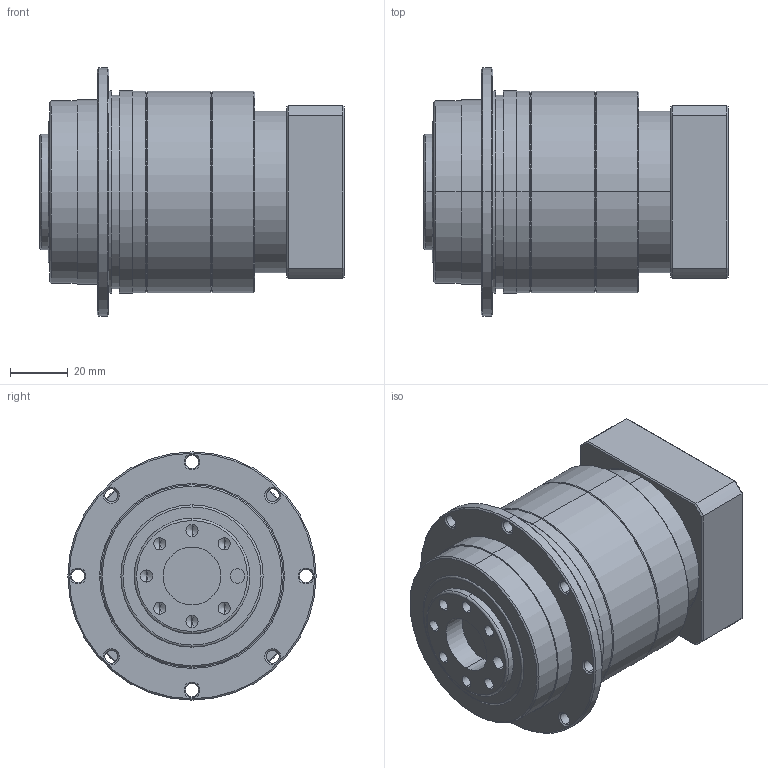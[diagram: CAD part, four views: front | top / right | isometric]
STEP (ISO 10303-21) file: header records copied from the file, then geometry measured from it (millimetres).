
FILE_DESCRIPTION (( 'STEP AP203' ), '1' );
FILE_NAME ('TD064-L2-11-50-70-M4-34-5.STEP', '2021-04-07T07:24:04', ( '' ), ( '' ), 'SwSTEP 2.0', 'SolidWorks 2017', '' );
FILE_SCHEMA (( 'CONFIG_CONTROL_DESIGN' ));
Length unit declared in the file: millimetre
Products named in the file (1): TD064-L2-11-50-70-M4-34-5
Bounding box: 105.5 x 86 x 86 mm (x, y, z)
Volume: 341073.1 mm3; surface area: 52681.5 mm2
Topology: 4 solids, 4 shells, 264 faces, 626 edges, 376 vertices
Faces by surface type: cylinder 127, cone 83, plane 50, torus 4
Entity records: 7842 total; most frequent: CARTESIAN_POINT 1520, DIRECTION 1425, ORIENTED_EDGE 1208, EDGE_CURVE 604, AXIS2_PLACEMENT_3D 591, VERTEX_POINT 376, EDGE_LOOP 328, CIRCLE 326
